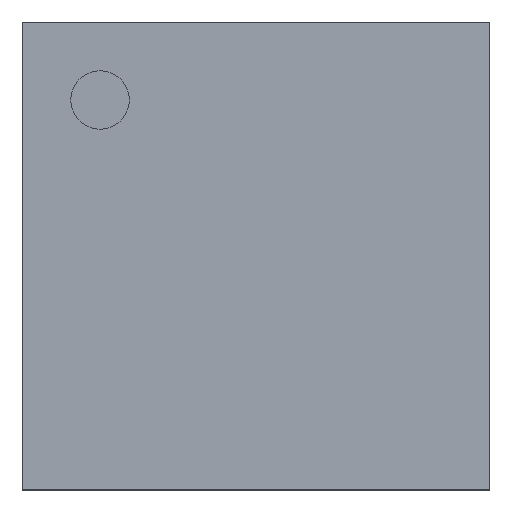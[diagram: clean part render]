
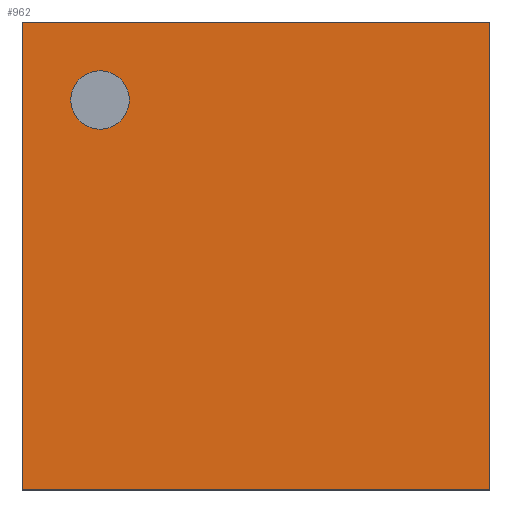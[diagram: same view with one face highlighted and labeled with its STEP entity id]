
A CAD part, top view. The second image highlights one B-rep face of the part: STEP entity #962.
In plain terms, the highlighted planar face has unit normal (0, 0, 1).
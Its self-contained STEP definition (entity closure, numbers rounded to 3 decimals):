
#898 = VERTEX_POINT('',#899);
#899 = CARTESIAN_POINT('',(0.,0.,0.89));
#914 = VERTEX_POINT('',#915);
#915 = CARTESIAN_POINT('',(0.,10.,0.89));
#921 = EDGE_CURVE('',#898,#914,#922,.T.);
#922 = LINE('',#923,#924);
#923 = CARTESIAN_POINT('',(0.,0.,0.89));
#924 = VECTOR('',#925,1.);
#925 = DIRECTION('',(0.,1.,0.));
#944 = EDGE_CURVE('',#898,#945,#947,.T.);
#945 = VERTEX_POINT('',#946);
#946 = CARTESIAN_POINT('',(10.,0.,0.89));
#947 = LINE('',#948,#949);
#948 = CARTESIAN_POINT('',(0.,0.,0.89));
#949 = VECTOR('',#950,1.);
#950 = DIRECTION('',(1.,0.,0.));
#962 = ADVANCED_FACE('',(#963,#981),#992,.T.);
#963 = FACE_BOUND('',#964,.T.);
#964 = EDGE_LOOP('',(#965,#966,#967,#975));
#965 = ORIENTED_EDGE('',*,*,#921,.F.);
#966 = ORIENTED_EDGE('',*,*,#944,.T.);
#967 = ORIENTED_EDGE('',*,*,#968,.T.);
#968 = EDGE_CURVE('',#945,#969,#971,.T.);
#969 = VERTEX_POINT('',#970);
#970 = CARTESIAN_POINT('',(10.,10.,0.89));
#971 = LINE('',#972,#973);
#972 = CARTESIAN_POINT('',(10.,0.,0.89));
#973 = VECTOR('',#974,1.);
#974 = DIRECTION('',(0.,1.,0.));
#975 = ORIENTED_EDGE('',*,*,#976,.F.);
#976 = EDGE_CURVE('',#914,#969,#977,.T.);
#977 = LINE('',#978,#979);
#978 = CARTESIAN_POINT('',(0.,10.,0.89));
#979 = VECTOR('',#980,1.);
#980 = DIRECTION('',(1.,0.,0.));
#981 = FACE_BOUND('',#982,.T.);
#982 = EDGE_LOOP('',(#983));
#983 = ORIENTED_EDGE('',*,*,#984,.F.);
#984 = EDGE_CURVE('',#985,#985,#987,.T.);
#985 = VERTEX_POINT('',#986);
#986 = CARTESIAN_POINT('',(2.292,8.333,0.89));
#987 = CIRCLE('',#988,0.625);
#988 = AXIS2_PLACEMENT_3D('',#989,#990,#991);
#989 = CARTESIAN_POINT('',(1.667,8.333,0.89));
#990 = DIRECTION('',(0.,0.,1.));
#991 = DIRECTION('',(1.,0.,0.));
#992 = PLANE('',#993);
#993 = AXIS2_PLACEMENT_3D('',#994,#995,#996);
#994 = CARTESIAN_POINT('',(0.,0.,0.89));
#995 = DIRECTION('',(0.,0.,1.));
#996 = DIRECTION('',(1.,0.,0.));
